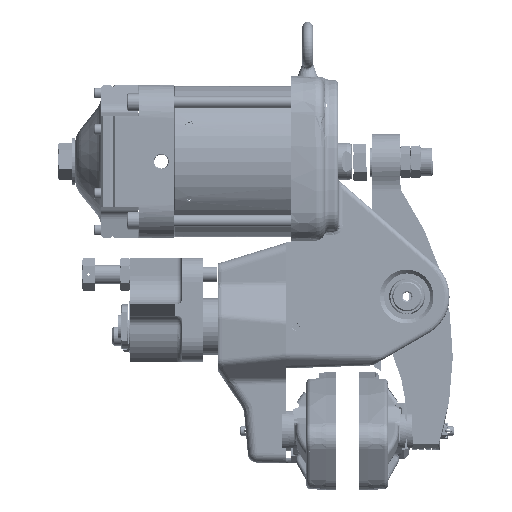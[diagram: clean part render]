
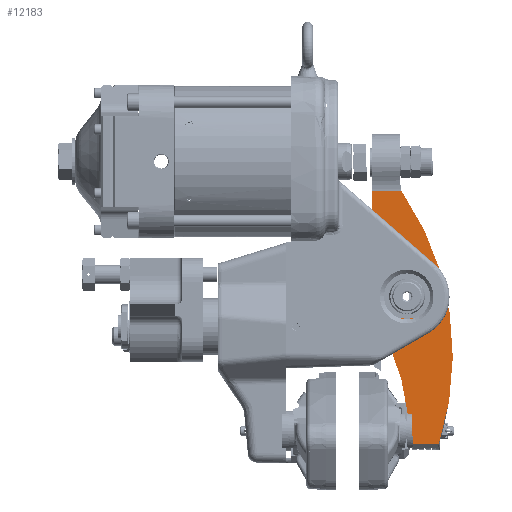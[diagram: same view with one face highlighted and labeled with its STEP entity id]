
A CAD part, front view. The second image highlights one B-rep face of the part: STEP entity #12183.
In plain terms, the highlighted planar face has unit normal (0, -1, 0).
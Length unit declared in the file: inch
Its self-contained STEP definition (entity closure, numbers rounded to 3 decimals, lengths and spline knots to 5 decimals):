
#1137 = VERTEX_POINT ( 'NONE', #168843 ) ;
#2301 = DIRECTION ( 'NONE',  ( 0., -1., 0. ) ) ;
#5029 = AXIS2_PLACEMENT_3D ( 'NONE', #83587, #114506, #168288 ) ;
#8928 = LINE ( 'NONE', #105349, #150464 ) ;
#12046 = EDGE_CURVE ( 'NONE', #95006, #167053, #60486, .T. ) ;
#12183 = ADVANCED_FACE ( 'NONE', ( #71343, #156930 ), #74008, .T. ) ;
#12352 = ORIENTED_EDGE ( 'NONE', *, *, #142377, .F. ) ;
#13702 = ORIENTED_EDGE ( 'NONE', *, *, #61003, .F. ) ;
#13827 = EDGE_CURVE ( 'NONE', #40341, #92393, #58004, .T. ) ;
#16406 = CARTESIAN_POINT ( 'NONE',  ( 8.82591, -5.1875, 6.23856 ) ) ;
#18590 = ORIENTED_EDGE ( 'NONE', *, *, #134691, .T. ) ;
#20535 = EDGE_CURVE ( 'NONE', #112453, #132702, #113192, .T. ) ;
#23422 = DIRECTION ( 'NONE',  ( 1., 0., 0.011 ) ) ;
#25068 = AXIS2_PLACEMENT_3D ( 'NONE', #88465, #31183, #72978 ) ;
#26025 = CIRCLE ( 'NONE', #151036, 15.27 ) ;
#26455 = CARTESIAN_POINT ( 'NONE',  ( 10.67447, -5.1875, 0.71061 ) ) ;
#26838 = CARTESIAN_POINT ( 'NONE',  ( 13.61134, -5.1875, 6.34783 ) ) ;
#27844 = VERTEX_POINT ( 'NONE', #16406 ) ;
#28088 = VECTOR ( 'NONE', #94518, 39.37008 ) ;
#28866 = VERTEX_POINT ( 'NONE', #73220 ) ;
#29287 = VECTOR ( 'NONE', #64968, 39.37008 ) ;
#30784 = CIRCLE ( 'NONE', #25068, 0.28 ) ;
#31183 = DIRECTION ( 'NONE',  ( 0., -1., 0. ) ) ;
#33319 = AXIS2_PLACEMENT_3D ( 'NONE', #60378, #2301, #79414 ) ;
#36322 = DIRECTION ( 'NONE',  ( -0.011, 0., 1. ) ) ;
#38044 = VERTEX_POINT ( 'NONE', #148103 ) ;
#40341 = VERTEX_POINT ( 'NONE', #122524 ) ;
#41089 = AXIS2_PLACEMENT_3D ( 'NONE', #176522, #173820, #91776 ) ;
#41838 = EDGE_CURVE ( 'NONE', #27844, #92393, #72139, .T. ) ;
#52026 = AXIS2_PLACEMENT_3D ( 'NONE', #26455, #120285, #92914 ) ;
#54473 = DIRECTION ( 'NONE',  ( -0.011, 0., 1. ) ) ;
#58004 = LINE ( 'NONE', #26838, #150293 ) ;
#59825 = DIRECTION ( 'NONE',  ( -0.011, 0., 1. ) ) ;
#60378 = CARTESIAN_POINT ( 'NONE',  ( 13.77684, -5.1875, -8.38673 ) ) ;
#60486 = CIRCLE ( 'NONE', #130333, 0.81865 ) ;
#60987 = ORIENTED_EDGE ( 'NONE', *, *, #139992, .F. ) ;
#61003 = EDGE_CURVE ( 'NONE', #132702, #27844, #130135, .T. ) ;
#61593 = LINE ( 'NONE', #116289, #89610 ) ;
#62994 = CARTESIAN_POINT ( 'NONE',  ( 10.88834, -5.1875, -5.55113 ) ) ;
#64968 = DIRECTION ( 'NONE',  ( -1., 0., -0.011 ) ) ;
#68197 = ORIENTED_EDGE ( 'NONE', *, *, #85114, .F. ) ;
#70612 = CIRCLE ( 'NONE', #96936, 0.06 ) ;
#71343 = FACE_BOUND ( 'NONE', #177262, .T. ) ;
#72139 = CIRCLE ( 'NONE', #165279, 3.03 ) ;
#72978 = DIRECTION ( 'NONE',  ( -0.011, 0., 1. ) ) ;
#73220 = CARTESIAN_POINT ( 'NONE',  ( 10.40923, -5.1875, 6.25389 ) ) ;
#74008 = PLANE ( 'NONE',  #33319 ) ;
#76955 = CARTESIAN_POINT ( 'NONE',  ( 10.66527, -5.1875, 1.52921 ) ) ;
#78168 = CARTESIAN_POINT ( 'NONE',  ( 5.79824, -5.1875, 6.35743 ) ) ;
#79414 = DIRECTION ( 'NONE',  ( -0.011, 0., 1. ) ) ;
#81875 = CARTESIAN_POINT ( 'NONE',  ( -2.17204, -5.1875, -2.3997 ) ) ;
#82350 = DIRECTION ( 'NONE',  ( 0., 1., 0. ) ) ;
#83587 = CARTESIAN_POINT ( 'NONE',  ( -1.07991, -5.1875, -6.73437 ) ) ;
#85114 = EDGE_CURVE ( 'NONE', #1137, #38044, #61593, .T. ) ;
#85804 = ORIENTED_EDGE ( 'NONE', *, *, #12046, .T. ) ;
#88465 = CARTESIAN_POINT ( 'NONE',  ( 10.63993, -5.1875, 6.41256 ) ) ;
#89610 = VECTOR ( 'NONE', #59825, 39.37008 ) ;
#91106 = VERTEX_POINT ( 'NONE', #124262 ) ;
#91776 = DIRECTION ( 'NONE',  ( -0.011, 0., 1. ) ) ;
#92141 = CIRCLE ( 'NONE', #5029, 11.84978 ) ;
#92393 = VERTEX_POINT ( 'NONE', #160800 ) ;
#92914 = DIRECTION ( 'NONE',  ( -0.011, 0., 1. ) ) ;
#94518 = DIRECTION ( 'NONE',  ( 0.039, 0., 0.999 ) ) ;
#95006 = VERTEX_POINT ( 'NONE', #76955 ) ;
#96936 = AXIS2_PLACEMENT_3D ( 'NONE', #62994, #160485, #175100 ) ;
#96950 = CARTESIAN_POINT ( 'NONE',  ( 10.67447, -5.1875, 0.71061 ) ) ;
#97818 = DIRECTION ( 'NONE',  ( -1., 0., -0.011 ) ) ;
#101551 = CARTESIAN_POINT ( 'NONE',  ( 8.61206, -5.1875, 0.79158 ) ) ;
#104229 = EDGE_LOOP ( 'NONE', ( #68197, #147725, #135811, #160041, #166610, #178626, #13702, #105489, #60987, #12352, #161459 ) ) ;
#105349 = CARTESIAN_POINT ( 'NONE',  ( 12.27582, -5.1875, -7.08439 ) ) ;
#105489 = ORIENTED_EDGE ( 'NONE', *, *, #20535, .F. ) ;
#107898 = CIRCLE ( 'NONE', #41089, 0.81865 ) ;
#112453 = VERTEX_POINT ( 'NONE', #168153 ) ;
#113192 = CIRCLE ( 'NONE', #52026, 2.064 ) ;
#114506 = DIRECTION ( 'NONE',  ( 0., -1., 0. ) ) ;
#115997 = VERTEX_POINT ( 'NONE', #117914 ) ;
#116289 = CARTESIAN_POINT ( 'NONE',  ( 10.98054, -5.1875, -8.41814 ) ) ;
#117914 = CARTESIAN_POINT ( 'NONE',  ( 12.36191, -5.1875, -7.08343 ) ) ;
#118485 = CARTESIAN_POINT ( 'NONE',  ( 10.68366, -5.1875, -0.10799 ) ) ;
#120285 = DIRECTION ( 'NONE',  ( 0., 1., 0. ) ) ;
#121880 = DIRECTION ( 'NONE',  ( 0., -1., 0. ) ) ;
#122524 = CARTESIAN_POINT ( 'NONE',  ( 10.37879, -5.1875, 6.31153 ) ) ;
#123274 = LINE ( 'NONE', #137815, #29287 ) ;
#124262 = CARTESIAN_POINT ( 'NONE',  ( 10.88766, -5.1875, -5.49113 ) ) ;
#130135 = LINE ( 'NONE', #151874, #28088 ) ;
#130333 = AXIS2_PLACEMENT_3D ( 'NONE', #96950, #82350, #178095 ) ;
#132702 = VERTEX_POINT ( 'NONE', #101551 ) ;
#134691 = EDGE_CURVE ( 'NONE', #167053, #95006, #107898, .T. ) ;
#135811 = ORIENTED_EDGE ( 'NONE', *, *, #141625, .F. ) ;
#137815 = CARTESIAN_POINT ( 'NONE',  ( 13.74396, -5.1875, -5.45905 ) ) ;
#139992 = EDGE_CURVE ( 'NONE', #169822, #112453, #92141, .T. ) ;
#141625 = EDGE_CURVE ( 'NONE', #28866, #115997, #26025, .T. ) ;
#142377 = EDGE_CURVE ( 'NONE', #91106, #169822, #123274, .T. ) ;
#143088 = EDGE_CURVE ( 'NONE', #1137, #115997, #8928, .T. ) ;
#147373 = CARTESIAN_POINT ( 'NONE',  ( 10.70469, -5.1875, -5.49319 ) ) ;
#147725 = ORIENTED_EDGE ( 'NONE', *, *, #143088, .T. ) ;
#148103 = CARTESIAN_POINT ( 'NONE',  ( 10.94833, -5.1875, -5.55046 ) ) ;
#150293 = VECTOR ( 'NONE', #97818, 39.37008 ) ;
#150464 = VECTOR ( 'NONE', #23422, 39.37008 ) ;
#151036 = AXIS2_PLACEMENT_3D ( 'NONE', #81875, #179372, #54473 ) ;
#151874 = CARTESIAN_POINT ( 'NONE',  ( 8.26022, -5.1875, -8.17015 ) ) ;
#152554 = EDGE_CURVE ( 'NONE', #40341, #28866, #30784, .T. ) ;
#156930 = FACE_OUTER_BOUND ( 'NONE', #104229, .T. ) ;
#160041 = ORIENTED_EDGE ( 'NONE', *, *, #152554, .F. ) ;
#160485 = DIRECTION ( 'NONE',  ( 0., 1., 0. ) ) ;
#160800 = CARTESIAN_POINT ( 'NONE',  ( 8.82758, -5.1875, 6.2941 ) ) ;
#161459 = ORIENTED_EDGE ( 'NONE', *, *, #172919, .T. ) ;
#165279 = AXIS2_PLACEMENT_3D ( 'NONE', #78168, #121880, #36322 ) ;
#166610 = ORIENTED_EDGE ( 'NONE', *, *, #13827, .T. ) ;
#167053 = VERTEX_POINT ( 'NONE', #118485 ) ;
#168153 = CARTESIAN_POINT ( 'NONE',  ( 8.9308, -5.1875, -0.39379 ) ) ;
#168288 = DIRECTION ( 'NONE',  ( -0.011, 0., 1. ) ) ;
#168843 = CARTESIAN_POINT ( 'NONE',  ( 10.96573, -5.1875, -7.09911 ) ) ;
#169822 = VERTEX_POINT ( 'NONE', #147373 ) ;
#172919 = EDGE_CURVE ( 'NONE', #91106, #38044, #70612, .T. ) ;
#173820 = DIRECTION ( 'NONE',  ( 0., 1., 0. ) ) ;
#175100 = DIRECTION ( 'NONE',  ( -0.011, 0., 1. ) ) ;
#176522 = CARTESIAN_POINT ( 'NONE',  ( 10.67447, -5.1875, 0.71061 ) ) ;
#177262 = EDGE_LOOP ( 'NONE', ( #85804, #18590 ) ) ;
#178095 = DIRECTION ( 'NONE',  ( -0.011, 0., 1. ) ) ;
#178626 = ORIENTED_EDGE ( 'NONE', *, *, #41838, .F. ) ;
#179372 = DIRECTION ( 'NONE',  ( 0., 1., 0. ) ) ;
